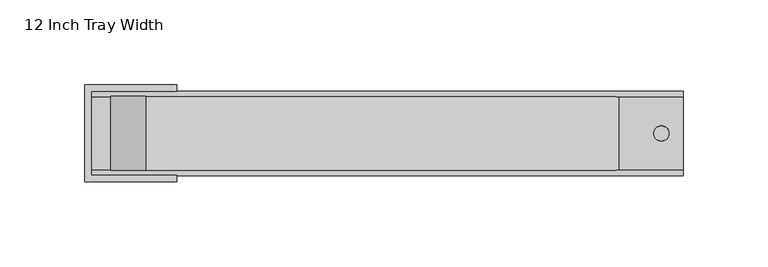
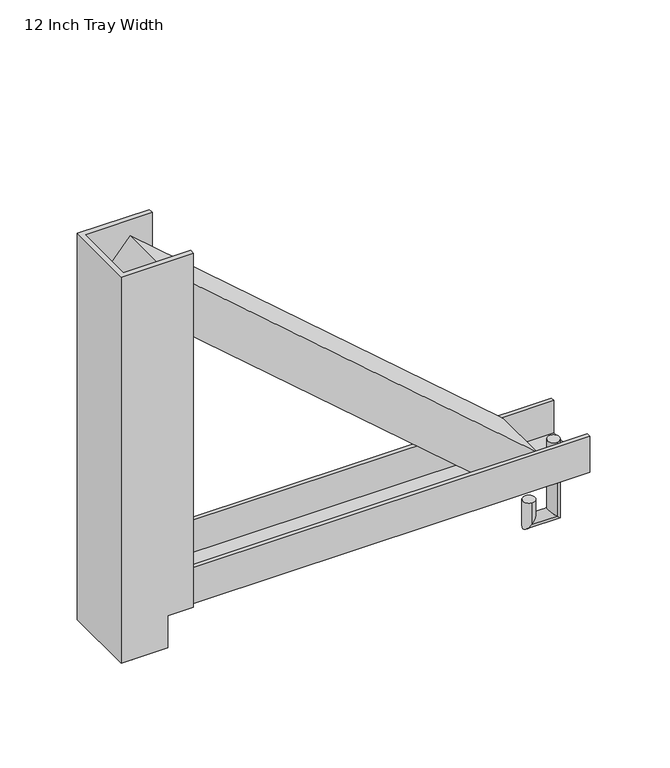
"""IFC4 building model written with IfcOpenShell, lengths in millimetres: electric appliance geometry, Cable_Tray_Accessory-Chatsworth-Triangular Support Bracket : 12 Inch Tray Width."""

from ifc_helpers import new_model, si_unit, frame, origin, place, context, project, spatial, polyline, circle_curve, ellipse_curve, faceted_brep, source, transform, mapped, element, save
from ifc_brep_helpers import plane_surface, cylinder_surface, revolved_surface, advanced_brep


def electric_appliance_12_inch_tray_width_142ef2c2(model_context):
    return source(origin(), model_context, "Body", "SolidModel", [
        advanced_brep(
        [(317.1698, 24.765, 28.448), (317.1698, 21.717, 28.448), (317.1698, 21.717, 3.048), (317.1698, -21.717, 3.048), (317.1698, -21.717, 28.448), (317.1698, -24.765, 28.448), (317.1698, -24.765, 0.0), (317.1698, 24.765, 0.0), (-30.9372, 24.765, 28.448), (-30.9372, 24.765, 0.0), (-30.9372, -24.765, 0.0), (-30.9372, -24.765, 28.448), (-30.9372, -21.717, 28.448), (-30.9372, -21.717, 3.048), (-30.9372, 21.717, 3.048), (-30.9372, 21.717, 28.448), (230.2405318, 21.717, 28.448), (278.3022261, 21.717, 28.448), (300.0248, 0.0, 0.0), (308.9148, 0.0, 0.0), (-13.6652, 0.0, 0.0), (-4.7752, 0.0, 0.0), (279.2298483, 21.717, 27.6432136), (258.5897517, 21.717, 3.8527864), (308.9148, 0.0, 3.048), (300.0248, 0.0, 3.048), (-4.7752, 0.0, 3.048), (-13.6652, 0.0, 3.048), (230.2405318, -21.717, 28.448), (258.5897517, -21.717, 3.8527864), (279.2298483, -21.717, 27.6432136), (278.3022261, -21.717, 28.448), (-19.5402483, 21.717, 245.1527864), (-19.5402483, -21.717, 245.1527864), (1.0998483, -21.717, 268.9432136), (1.0998483, 21.717, 268.9432136)],
        [
            (0, 1),
            (1, 2),
            (2, 3),
            (3, 4),
            (4, 5),
            (5, 6),
            (6, 7),
            (7, 0),
            (8, 9),
            (9, 10),
            (10, 11),
            (11, 12),
            (12, 13),
            (13, 14),
            (14, 15),
            (15, 8),
            (0, 8),
            (15, 16),
            (16, 17),
            (17, 1),
            (5, 11),
            (10, 6),
            (9, 7),
            (18, 19, circle_curve(frame((304.4698, 0.0, 0.0), z_axis=(0.0, 0.0, 1.0), x_axis=(1.0, 0.0, 0.0)), 4.445)),
            (19, 18, circle_curve(frame((304.4698, 0.0, 0.0), z_axis=(0.0, 0.0, 1.0), x_axis=(1.0, 0.0, 0.0)), 4.445)),
            (20, 21, circle_curve(frame((-9.2202, 0.0, 0.0), z_axis=(0.0, 0.0, 1.0), x_axis=(1.0, 0.0, 0.0)), 4.445)),
            (21, 20, circle_curve(frame((-9.2202, 0.0, 0.0), z_axis=(0.0, 0.0, 1.0), x_axis=(1.0, 0.0, 0.0)), 4.445)),
            (17, 22),
            (22, 23),
            (23, 16),
            (14, 2),
            (13, 3),
            (24, 25, circle_curve(frame((304.4698, 0.0, 3.048), z_axis=(0.0, 0.0, -1.0), x_axis=(1.0, 0.0, 0.0)), 4.445)),
            (25, 24, circle_curve(frame((304.4698, 0.0, 3.048), z_axis=(0.0, 0.0, -1.0), x_axis=(1.0, 0.0, 0.0)), 4.445)),
            (26, 27, circle_curve(frame((-9.2202, 0.0, 3.048), z_axis=(0.0, 0.0, -1.0), x_axis=(1.0, 0.0, 0.0)), 4.445)),
            (27, 26, circle_curve(frame((-9.2202, 0.0, 3.048), z_axis=(0.0, 0.0, -1.0), x_axis=(1.0, 0.0, 0.0)), 4.445)),
            (12, 28),
            (28, 29),
            (29, 30),
            (30, 31),
            (31, 4),
            (31, 28),
            (24, 19),
            (18, 25),
            (26, 21),
            (20, 27),
            (32, 33),
            (33, 34),
            (34, 35),
            (35, 32),
            (22, 30),
            (29, 23),
            (32, 16),
            (28, 33),
            (31, 34),
            (17, 35),
        ],
        [
            plane_surface(frame((317.1698, -24.765, 28.448), z_axis=(1.0, 0.0, 0.0), x_axis=(0.0, -1.0, 0.0))),
            plane_surface(frame((-30.9372, -24.765, 28.448), z_axis=(-1.0, 0.0, 0.0), x_axis=(0.0, 1.0, 0.0))),
            plane_surface(frame((317.1698, 24.765, 28.448), z_axis=(0.0, 0.0, 1.0), x_axis=(-1.0, 0.0, 0.0))),
            plane_surface(frame((317.1698, -24.765, 28.448), z_axis=(0.0, -1.0, 0.0), x_axis=(-1.0, 0.0, 0.0))),
            plane_surface(frame((317.1698, -24.765, 0.0), z_axis=(0.0, 0.0, -1.0), x_axis=(-1.0, 0.0, 0.0))),
            plane_surface(frame((317.1698, 24.765, 0.0), z_axis=(0.0, 1.0, 0.0), x_axis=(-1.0, 0.0, 0.0))),
            plane_surface(frame((317.1698, 21.717, 28.448), z_axis=(0.0, -1.0, 0.0), x_axis=(-1.0, 0.0, 0.0))),
            plane_surface(frame((317.1698, 21.717, 3.048), z_axis=(0.0, 0.0, 1.0), x_axis=(-1.0, 0.0, 0.0))),
            plane_surface(frame((317.1698, -21.717, 3.048), z_axis=(0.0, 1.0, 0.0), x_axis=(-1.0, 0.0, 0.0))),
            plane_surface(frame((317.1698, -21.717, 28.448), z_axis=(0.0, 0.0, 1.0), x_axis=(-1.0, 0.0, 0.0))),
            revolved_surface(polyline([(308.9148, 0.0, 3.048), (308.9148, 0.0, 0.0)]), (304.4698, 0.0, 0.0), (0.0, 0.0, 1.0)),
            revolved_surface(polyline([(-4.7752, 0.0, 3.048), (-4.7752, 0.0, 0.0)]), (-9.2202, 0.0, 0.0), (0.0, 0.0, 1.0)),
            plane_surface(frame((-9.2202, 0.0, 257.048), z_axis=(-0.7553475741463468, 0.0, 0.6553243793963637), x_axis=(0.0, -1.0, 0.0))),
            plane_surface(frame((268.9098, 0.0, 15.748), z_axis=(0.7553475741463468, 0.0, -0.6553243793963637), x_axis=(0.0, -1.0, 0.0))),
            plane_surface(frame((-19.5402483, 21.717, 245.1527864), z_axis=(-0.6553243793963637, 0.0, -0.7553475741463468), x_axis=(0.7553475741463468, 0.0, -0.6553243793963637))),
            plane_surface(frame((-19.5402483, -21.717, 245.1527864), z_axis=(0.0, -1.0, 0.0), x_axis=(0.7553475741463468, 0.0, -0.6553243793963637))),
            plane_surface(frame((1.0998483, -21.717, 268.9432136), z_axis=(0.6553243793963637, 0.0, 0.7553475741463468), x_axis=(0.7553475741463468, 0.0, -0.6553243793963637))),
            plane_surface(frame((1.0998483, 21.717, 268.9432136), z_axis=(0.0, 1.0, 0.0), x_axis=(0.7553475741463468, 0.0, -0.6553243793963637))),
        ],
        [
            (0, [[1, 2, 3, 4, 5, 6, 7, 8]]),
            (1, [[9, 10, 11, 12, 13, 14, 15, 16]]),
            (2, [[-1, 17, -16, 18, 19, 20]]),
            (3, [[-6, 21, -11, 22]]),
            (4, [[-7, -22, -10, 23], [24, 25], [26, 27]]),
            (5, [[-8, -23, -9, -17]]),
            (6, [[-2, -20, 28, 29, 30, -18, -15, 31]]),
            (7, [[-3, -31, -14, 32], [33, 34], [35, 36]]),
            (8, [[-4, -32, -13, 37, 38, 39, 40, 41]]),
            (9, [[-5, -41, 42, -37, -12, -21]]),
            (10, [[43, -24, 44, -33]]),
            (10, [[-43, -34, -44, -25]]),
            (11, [[45, -26, 46, -35]]),
            (11, [[-45, -36, -46, -27]]),
            (12, [[47, 48, 49, 50]]),
            (13, [[51, -39, 52, -29]]),
            (14, [[-47, 53, -30, -52, -38, 54]]),
            (15, [[-48, -54, -42, 55]]),
            (16, [[-49, -55, -40, -51, -28, 56]]),
            (17, [[-50, -56, -19, -53]]),
        ],
    ),
        advanced_brep(
        [(-9.2202, 4.4577, 15.748), (-9.2202, -4.4577, 15.748), (-9.2202, 4.4577, -42.5577), (-9.2202, -4.4577, -42.5577), (9.2202, 4.4577, -42.5577), (9.2202, -4.4577, -42.5577), (9.2202, 4.4577, -25.4), (9.2202, -4.4577, -25.4)],
        [
            (0, 1, circle_curve(frame((-9.2202, 0.0, 15.748), z_axis=(0.0, 0.0, 1.0), x_axis=(0.0, -1.0, 0.0)), 4.4577)),
            (1, 0, circle_curve(frame((-9.2202, 0.0, 15.748), z_axis=(0.0, 0.0, 1.0), x_axis=(0.0, -1.0, 0.0)), 4.4577)),
            (0, 2),
            (2, 3, ellipse_curve(frame((-9.2202, 0.0, -42.5577), z_axis=(-0.7071067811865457, 0.0, 0.7071067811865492), x_axis=(0.7071067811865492, 0.0, 0.7071067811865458)), 6.3041398, 4.4577)),
            (3, 1),
            (3, 2, ellipse_curve(frame((-9.2202, 0.0, -42.5577), z_axis=(-0.7071067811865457, 0.0, 0.7071067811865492), x_axis=(0.7071067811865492, 0.0, 0.7071067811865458)), 6.3041398, 4.4577)),
            (2, 4),
            (4, 5, ellipse_curve(frame((9.2202, 0.0, -42.5577), z_axis=(-0.7071067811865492, 0.0, -0.7071067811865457), x_axis=(-0.7071067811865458, 0.0, 0.7071067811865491)), 6.3041398, 4.4577)),
            (5, 3),
            (5, 4, ellipse_curve(frame((9.2202, 0.0, -42.5577), z_axis=(-0.7071067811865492, 0.0, -0.7071067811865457), x_axis=(-0.7071067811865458, 0.0, 0.7071067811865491)), 6.3041398, 4.4577)),
            (6, 7, circle_curve(frame((9.2202, 0.0, -25.4), z_axis=(0.0, 0.0, 1.0), x_axis=(0.0, -1.0, 0.0)), 4.4577)),
            (7, 6, circle_curve(frame((9.2202, 0.0, -25.4), z_axis=(0.0, 0.0, 1.0), x_axis=(0.0, -1.0, 0.0)), 4.4577)),
            (4, 6),
            (7, 5),
        ],
        [
            plane_surface(frame((-4.7625, 0.0, 15.748), z_axis=(0.0, 0.0, 1.0), x_axis=(0.0, -1.0, 0.0))),
            cylinder_surface(frame((-9.2202, 0.0, 15.748), z_axis=(0.0, 0.0, 1.0), x_axis=(0.0, -1.0, 0.0)), 4.4577),
            cylinder_surface(frame((-4.7625, 0.0, -42.5577), z_axis=(-1.0, 0.0, 0.0), x_axis=(0.0, -1.0, 0.0)), 4.4577),
            plane_surface(frame((4.7625, 0.0, -25.4), z_axis=(0.0, 0.0, 1.0), x_axis=(0.0, -1.0, 0.0))),
            cylinder_surface(frame((9.2202, 0.0, -38.1), z_axis=(0.0, 0.0, -1.0), x_axis=(0.0, -1.0, 0.0)), 4.4577),
        ],
        [
            (0, [[1, 2]]),
            (1, [[-1, 3, 4, 5]]),
            (1, [[-2, -5, 6, -3]]),
            (2, [[-4, 7, 8, 9]]),
            (2, [[-6, -9, 10, -7]]),
            (3, [[11, 12]]),
            (4, [[-8, 13, -12, 14]]),
            (4, [[-10, -14, -11, -13]]),
        ],
    ),
        advanced_brep(
        [(304.4698, 4.4577, 15.748), (304.4698, -4.4577, 15.748), (304.4698, 4.4577, -42.5577), (304.4698, -4.4577, -42.5577), (286.0294, 4.4577, -42.5577), (286.0294, -4.4577, -42.5577), (286.0294, 4.4577, -25.4), (286.0294, -4.4577, -25.4)],
        [
            (0, 1, circle_curve(frame((304.4698, 0.0, 15.748), z_axis=(0.0, 0.0, 1.0), x_axis=(0.0, -1.0, 0.0)), 4.4577)),
            (1, 0, circle_curve(frame((304.4698, 0.0, 15.748), z_axis=(0.0, 0.0, 1.0), x_axis=(0.0, -1.0, 0.0)), 4.4577)),
            (0, 2),
            (2, 3, ellipse_curve(frame((304.4698, 0.0, -42.5577), z_axis=(0.7071067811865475, 0.0, 0.7071067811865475), x_axis=(-0.7071067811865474, 0.0, 0.7071067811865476)), 6.3041398, 4.4577)),
            (3, 1),
            (3, 2, ellipse_curve(frame((304.4698, 0.0, -42.5577), z_axis=(0.7071067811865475, 0.0, 0.7071067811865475), x_axis=(-0.7071067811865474, 0.0, 0.7071067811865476)), 6.3041398, 4.4577)),
            (2, 4),
            (4, 5, ellipse_curve(frame((286.0294, 0.0, -42.5577), z_axis=(0.7071067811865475, 0.0, -0.7071067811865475), x_axis=(0.7071067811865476, 0.0, 0.7071067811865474)), 6.3041398, 4.4577)),
            (5, 3),
            (5, 4, ellipse_curve(frame((286.0294, 0.0, -42.5577), z_axis=(0.7071067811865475, 0.0, -0.7071067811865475), x_axis=(0.7071067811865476, 0.0, 0.7071067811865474)), 6.3041398, 4.4577)),
            (6, 7, circle_curve(frame((286.0294, 0.0, -25.4), z_axis=(0.0, 0.0, 1.0), x_axis=(0.0, -1.0, 0.0)), 4.4577)),
            (7, 6, circle_curve(frame((286.0294, 0.0, -25.4), z_axis=(0.0, 0.0, 1.0), x_axis=(0.0, -1.0, 0.0)), 4.4577)),
            (4, 6),
            (7, 5),
        ],
        [
            plane_surface(frame((300.0121, 0.0, 15.748), z_axis=(0.0, 0.0, 1.0), x_axis=(0.0, -1.0, 0.0))),
            cylinder_surface(frame((304.4698, 0.0, 15.748), z_axis=(0.0, 0.0, 1.0), x_axis=(0.0, -1.0, 0.0)), 4.4577),
            cylinder_surface(frame((300.0121, 0.0, -42.5577), z_axis=(1.0, 0.0, 0.0), x_axis=(0.0, -1.0, 0.0)), 4.4577),
            plane_surface(frame((290.4871, 0.0, -25.4), z_axis=(0.0, 0.0, 1.0), x_axis=(0.0, -1.0, 0.0))),
            cylinder_surface(frame((286.0294, 0.0, -38.1), z_axis=(0.0, 0.0, -1.0), x_axis=(0.0, -1.0, 0.0)), 4.4577),
        ],
        [
            (0, [[1, 2]]),
            (1, [[-1, 3, 4, 5]]),
            (1, [[-2, -5, 6, -3]]),
            (2, [[-4, 7, 8, 9]]),
            (2, [[-6, -9, 10, -7]]),
            (3, [[11, 12]]),
            (4, [[-8, 13, -12, 14]]),
            (4, [[-10, -14, -11, -13]]),
        ],
    ),
        faceted_brep([(19.2278, 28.448, 279.4), (-34.6202, 28.448, 279.4), (-34.6202, -28.448, 279.4), (19.2278, -28.448, 279.4), (19.2278, -24.765, 279.4), (-30.9372, -24.765, 279.4), (-30.9372, 24.765, 279.4), (19.2278, 24.765, 279.4), (-30.9372, 24.765, -25.4), (-30.9372, -24.765, -25.4), (0.0, -24.765, -25.4), (0.0, -28.448, -25.4), (-34.6202, -28.448, -25.4), (-34.6202, 28.448, -25.4), (0.0, 28.448, -25.4), (0.0, 24.765, -25.4), (19.2278, 28.448, 0.0), (0.0, 28.448, 0.0), (0.0, -28.448, 0.0), (19.2278, -28.448, 0.0), (19.2278, -24.765, 0.0), (0.0, -24.765, 0.0), (0.0, 24.765, 0.0), (19.2278, 24.765, 0.0)], [[[0, 1, 2, 3, 4, 5, 6, 7]], [[8, 9, 10, 11, 12, 13, 14, 15]], [[1, 0, 16, 17, 14, 13]], [[2, 1, 13, 12]], [[3, 2, 12, 11, 18, 19]], [[4, 3, 19, 20]], [[5, 4, 20, 21, 10, 9]], [[6, 5, 9, 8]], [[7, 6, 8, 15, 22, 23]], [[0, 7, 23, 16]], [[18, 21, 20, 19]], [[22, 17, 16, 23]], [[21, 18, 11, 10]], [[17, 22, 15, 14]]]),
    ])


if __name__ == "__main__":
    model = new_model("IFC4")
    model_context = context("Model", 3, world=origin())
    ifc_project = project(units=[si_unit("LENGTHUNIT", "METRE", prefix="MILLI")], contexts=[model_context])
    site = spatial("IfcSite", under=ifc_project)
    building = spatial("IfcBuilding", under=site)
    placement = place(None, origin())
    electric_appliance_12_inch_tray_width_shape = electric_appliance_12_inch_tray_width_142ef2c2(model_context)
    element("IfcElectricAppliance", 1, ObjectType="Cable_Tray_Accessory-Chatsworth-Triangular Support Bracket : 12 Inch Tray Width", at=placement, inside=building, context=model_context, shape_type="MappedRepresentation", body=[
        mapped(electric_appliance_12_inch_tray_width_shape, transform((0.0, 0.0, 0.0), x_axis=(1.0, 0.0, 0.0), y_axis=(0.0, 1.0, 0.0), z_axis=(0.0, 0.0, 1.0))),
    ])
    save(model, "model.ifc")
